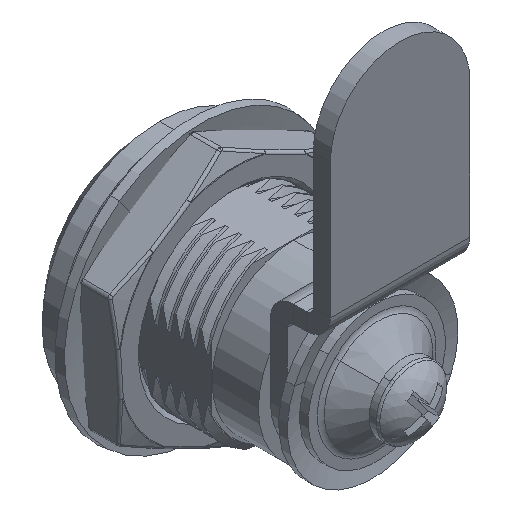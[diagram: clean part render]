
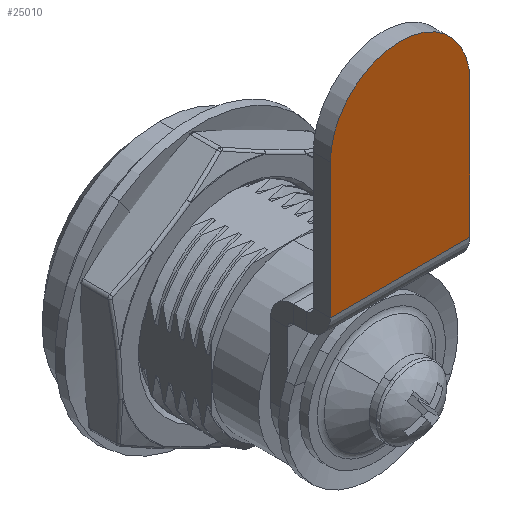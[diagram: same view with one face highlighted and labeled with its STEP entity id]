
A CAD part, isometric view. The second image highlights one B-rep face of the part: STEP entity #25010.
In plain terms, the highlighted planar face has unit normal (0, -1, 0) as drawn and (0, 1, 0) by its records, which use the part's own axes.
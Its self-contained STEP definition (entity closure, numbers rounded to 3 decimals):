
#3385 = PLANE ( 'NONE',  #40176 ) ;
#4364 = CARTESIAN_POINT ( 'NONE',  ( 1.891, 5., -8.15 ) ) ;
#8680 = CARTESIAN_POINT ( 'NONE',  ( -10.341, 5., 0. ) ) ;
#11172 = ORIENTED_EDGE ( 'NONE', *, *, #32317, .T. ) ;
#11198 = CARTESIAN_POINT ( 'NONE',  ( -10.341, 5., 8.15 ) ) ;
#13093 = DIRECTION ( 'NONE',  ( 0., 0., 1. ) ) ;
#13619 = AXIS2_PLACEMENT_3D ( 'NONE', #34038, #44017, #24313 ) ;
#13993 = DIRECTION ( 'NONE',  ( 0., 0., -1. ) ) ;
#16601 = CIRCLE ( 'NONE', #13619, 8.15 ) ;
#24313 = DIRECTION ( 'NONE',  ( 0., 0., 1. ) ) ;
#25010 = ADVANCED_FACE ( 'NONE', ( #55017 ), #3385, .T. ) ;
#27484 = DIRECTION ( 'NONE',  ( 0., 1., 0. ) ) ;
#27849 = VECTOR ( 'NONE', #30897, 1000. ) ;
#28042 = VERTEX_POINT ( 'NONE', #36135 ) ;
#30897 = DIRECTION ( 'NONE',  ( 1., 0., 0. ) ) ;
#31286 = EDGE_CURVE ( 'NONE', #60212, #28042, #16601, .T. ) ;
#31567 = VECTOR ( 'NONE', #13993, 1000. ) ;
#32317 = EDGE_CURVE ( 'NONE', #60130, #51007, #41548, .T. ) ;
#34038 = CARTESIAN_POINT ( 'NONE',  ( -13.85, 5., 0. ) ) ;
#36135 = CARTESIAN_POINT ( 'NONE',  ( -13.85, 5., 8.15 ) ) ;
#39360 = ORIENTED_EDGE ( 'NONE', *, *, #44205, .T. ) ;
#40176 = AXIS2_PLACEMENT_3D ( 'NONE', #8680, #27484, #13093 ) ;
#41548 = LINE ( 'NONE', #61535, #31567 ) ;
#44017 = DIRECTION ( 'NONE',  ( 0., 1., 0. ) ) ;
#44205 = EDGE_CURVE ( 'NONE', #51007, #60212, #49763, .T. ) ;
#46762 = CARTESIAN_POINT ( 'NONE',  ( 1.891, 5., 8.15 ) ) ;
#49456 = DIRECTION ( 'NONE',  ( -1., 0., 0. ) ) ;
#49763 = LINE ( 'NONE', #59750, #49803 ) ;
#49803 = VECTOR ( 'NONE', #49456, 1000. ) ;
#51007 = VERTEX_POINT ( 'NONE', #4364 ) ;
#53059 = ORIENTED_EDGE ( 'NONE', *, *, #54180, .T. ) ;
#54067 = LINE ( 'NONE', #11198, #27849 ) ;
#54180 = EDGE_CURVE ( 'NONE', #28042, #60130, #54067, .T. ) ;
#55017 = FACE_OUTER_BOUND ( 'NONE', #60971, .T. ) ;
#58912 = ORIENTED_EDGE ( 'NONE', *, *, #31286, .T. ) ;
#58918 = CARTESIAN_POINT ( 'NONE',  ( -13.85, 5., -8.15 ) ) ;
#59750 = CARTESIAN_POINT ( 'NONE',  ( -10.341, 5., -8.15 ) ) ;
#60130 = VERTEX_POINT ( 'NONE', #46762 ) ;
#60212 = VERTEX_POINT ( 'NONE', #58918 ) ;
#60971 = EDGE_LOOP ( 'NONE', ( #53059, #11172, #39360, #58912 ) ) ;
#61535 = CARTESIAN_POINT ( 'NONE',  ( 1.891, 5., 0. ) ) ;
